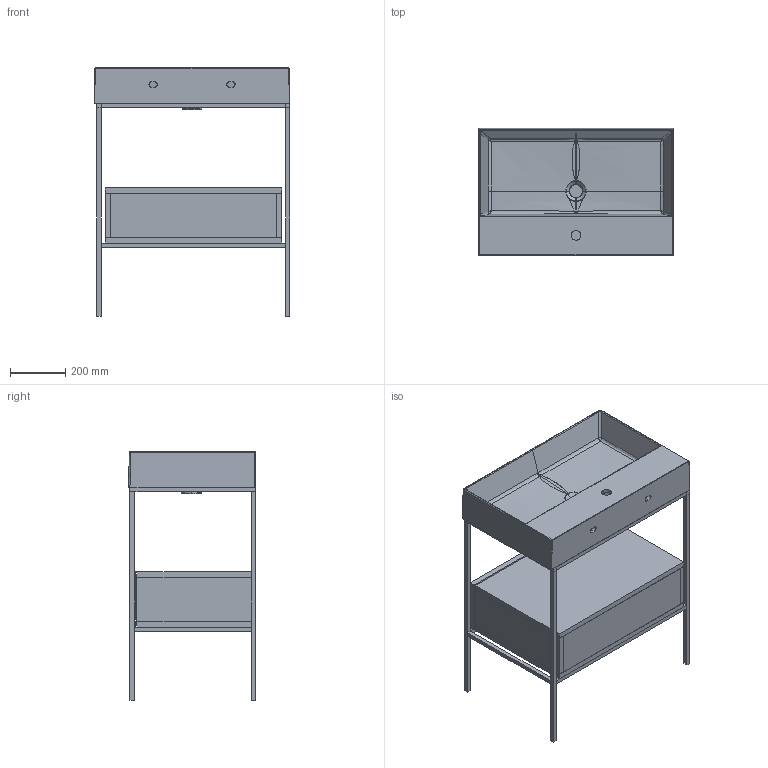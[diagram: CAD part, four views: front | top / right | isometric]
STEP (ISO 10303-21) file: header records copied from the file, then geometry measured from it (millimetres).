
FILE_DESCRIPTION(('CATIA V5 STEP Exchange'),'2;1');
FILE_NAME('C:\Users\Luca\Downloads\conf 8912.stp','2021-08-04T09:50:36+00:00',('none'),('none'),'CATIA Version 5 Release 19 SP 5 (IN-10)','CATIA V5 STEP AP214','none');
FILE_SCHEMA(('AUTOMOTIVE_DESIGN { 1 0 10303 214 1 1 1 1 }'));
Products named in the file (4): conf 8912; 8912; nuovo Project 71 x 46; 8915
Assembly tree (3 placements, depth 2):
  conf 8912
    8912
    nuovo Project 71 x 46
    8915
Bounding box: 710.38 x 460.18 x 900 mm (x, y, z)
Surface area: 3813750.8 mm2 (no closed solid volume)
Topology: 0 solids, 516 shells, 516 faces, 2428 edges, 2412 vertices
Faces by surface type: bspline 354, plane 160, cylinder 2
Entity records: 69110 total; most frequent: CARTESIAN_POINT 50809, ORIENTED_EDGE 2412, EDGE_CURVE 2412, VERTEX_POINT 2412, B_SPLINE_CURVE_WITH_KNOTS 1731, DIRECTION 1017, VECTOR 677, LINE 677
